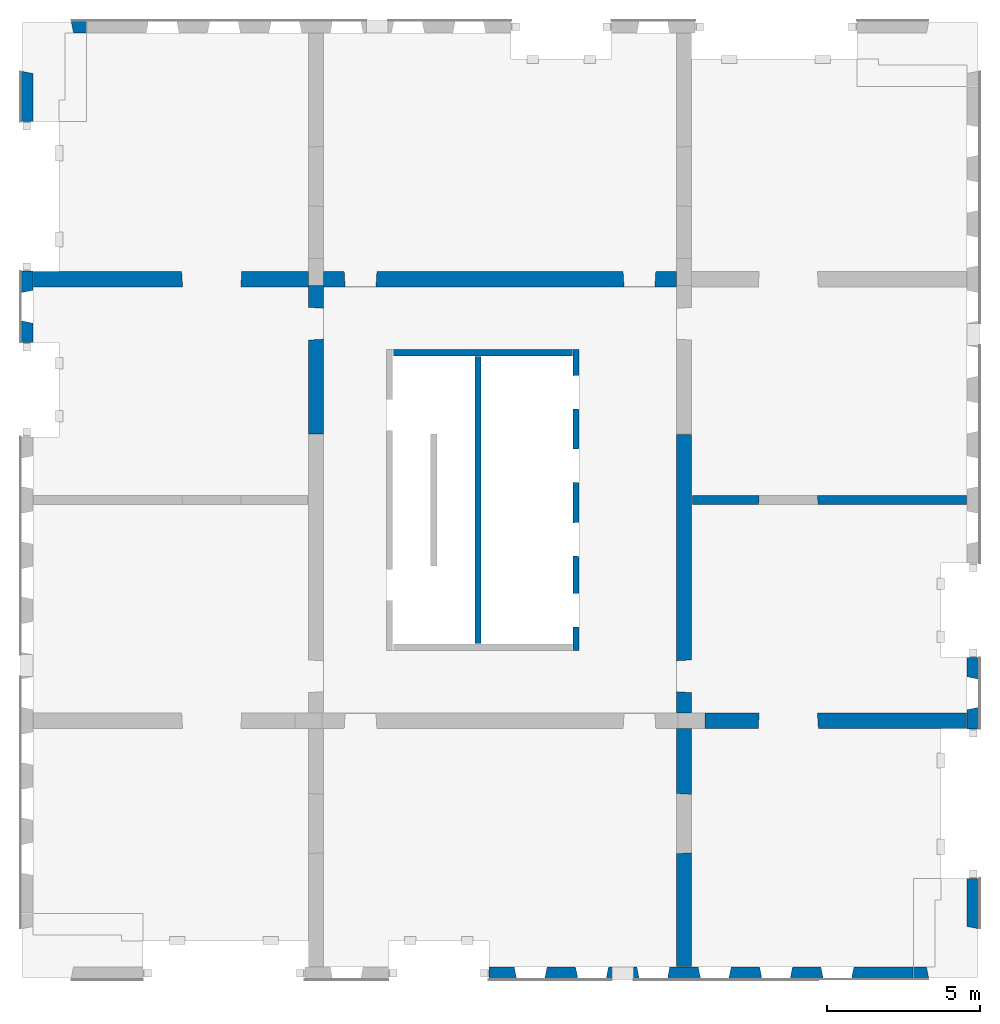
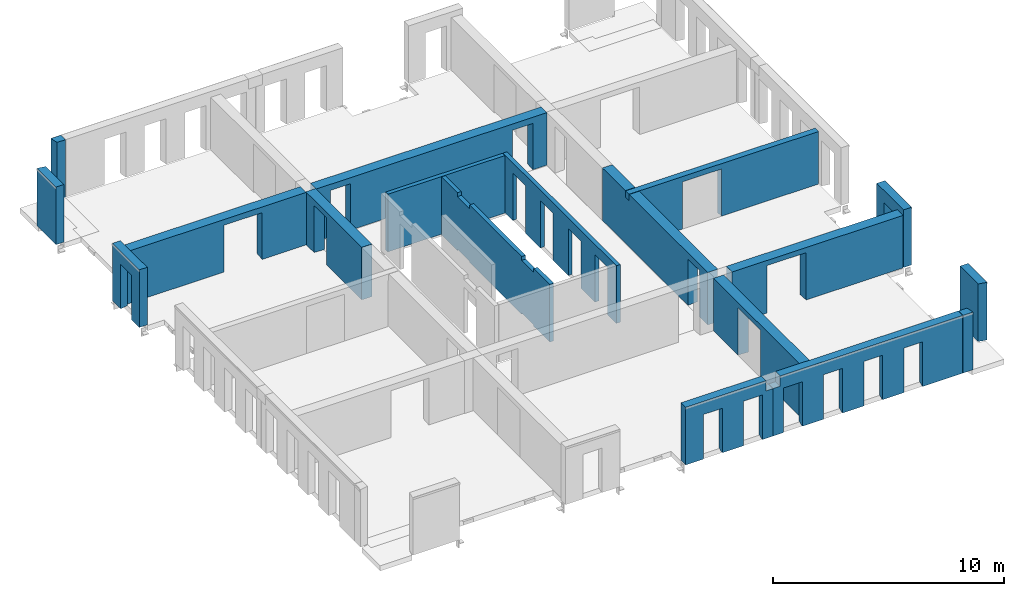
# One storey, part 3 of 5: 18 walls, 36 openings.
"""IFC2X3 building model written with IfcOpenShell, lengths in millimetres."""

import ifcopenshell
import ifcopenshell.guid

model = None  # the IFC model being written
_history = None  # IfcOwnerHistory: only IFC2X3 demands one
_inside = {}  # id of a spatial element -> (the spatial element, [elements in it])
_under = {}  # id of a project, library or spatial element -> (it, [spatial elements below it])
_declared = {}  # id of a project -> (the project, [libraries it declares])
_typed = {}  # id of a type object -> (the type object, [elements of that type])
_made_of = {}  # id of a material, layer set ... -> (it, [elements and type objects made of it])


def new_model(schema):
    """Start an empty IFC model of exactly this schema.

    Asked for "IFC4X3", IfcOpenShell would pick the latest addendum, in which some entities
    have other attributes; the version numbers below select the first issue.
    IFC2X3 requires an IfcOwnerHistory on every rooted entity: one is made here for all.
    """
    global model, _history
    if schema == "IFC4X3":
        model = ifcopenshell.file(schema_version=(4, 3, 0, 0))
    else:
        model = ifcopenshell.file(schema=schema)
    _inside.clear()
    _under.clear()
    _declared.clear()
    _typed.clear()
    _made_of.clear()
    _history = None
    if model.schema == "IFC2X3":
        org = make("IfcOrganization", Name="unknown")
        user = make(
            "IfcPersonAndOrganization",
            ThePerson=make("IfcPerson", FamilyName="unknown"),
            TheOrganization=org,
        )
        app = make(
            "IfcApplication",
            ApplicationDeveloper=org,
            Version="unknown",
            ApplicationFullName="unknown",
            ApplicationIdentifier="unknown",
        )
        _history = make(
            "IfcOwnerHistory",
            OwningUser=user,
            OwningApplication=app,
            ChangeAction="ADDED",
            CreationDate=0,
        )
    return model


def make(cls, **values):
    """One entity of the class cls with the attributes given. An attribute that is None is left unset."""
    return model.create_entity(
        cls, **{name: value for name, value in values.items() if value is not None}
    )


def entity(cls, *values):
    """Any entity or typed value of the class cls, its attributes in the order of the schema. None: left unset."""
    e = model.create_entity(cls)
    for i, value in enumerate(values):
        if value is not None:
            e[i] = value
    return e


def rooted(cls, **values):
    """An entity with a GlobalId (a new one), such as an element, a storey or a relation."""
    return make(cls, GlobalId=ifcopenshell.guid.new(), OwnerHistory=_history, **values)


def si_unit(unit_type, name, prefix=None):
    """IfcSIUnit, for example si_unit("LENGTHUNIT", "METRE", prefix="MILLI")."""
    return make("IfcSIUnit", UnitType=unit_type, Prefix=prefix, Name=name)


def converted_unit(unit_type, name, factor, base, dimensions=None, offset=None):
    """IfcConversionBasedUnit, such as the inch: factor (a typed value) times the base unit."""
    return make(
        "IfcConversionBasedUnit"
        if offset is None
        else "IfcConversionBasedUnitWithOffset",
        ConversionOffset=offset,
        Dimensions=None
        if dimensions is None
        else entity("IfcDimensionalExponents", *dimensions),
        UnitType=unit_type,
        Name=name,
        ConversionFactor=make(
            "IfcMeasureWithUnit", ValueComponent=factor, UnitComponent=base
        ),
    )


def derived_unit(unit_type, elements):
    """IfcDerivedUnit: a product of units, each with its exponent."""
    return make(
        "IfcDerivedUnit",
        Elements=[
            make("IfcDerivedUnitElement", Unit=unit, Exponent=power)
            for unit, power in elements
        ],
        UnitType=unit_type,
    )


def assignment(units):
    """IfcUnitAssignment: the units of a project."""
    return None if units is None else make("IfcUnitAssignment", Units=units)


def point(xyz):
    """IfcCartesianPoint."""
    return None if xyz is None else make("IfcCartesianPoint", Coordinates=xyz)


def direction(xyz):
    """IfcDirection."""
    return None if xyz is None else make("IfcDirection", DirectionRatios=xyz)


def frame(location, z_axis=None, x_axis=None):
    """IfcAxis2Placement3D, a coordinate frame: its origin and axes. An axis left out is left unset."""
    return make(
        "IfcAxis2Placement3D",
        Location=point(location),
        Axis=direction(z_axis),
        RefDirection=direction(x_axis),
    )


def frame_2d(location, x_axis=None):
    """IfcAxis2Placement2D, a coordinate frame in the plane: its origin and x axis."""
    return make(
        "IfcAxis2Placement2D", Location=point(location), RefDirection=direction(x_axis)
    )


def origin():
    """The frame at (0, 0, 0) with its axes left unset."""
    return frame((0.0, 0.0, 0.0))


def origin_2d_with_axis():
    """The frame at (0, 0) in the plane with the x axis (1, 0) written out."""
    return frame_2d((0.0, 0.0), x_axis=(1.0, 0.0))


def place(relative_to, where):
    """IfcLocalPlacement: puts the frame where relative to a parent placement (None: the world)."""
    return make(
        "IfcLocalPlacement", PlacementRelTo=relative_to, RelativePlacement=where
    )


def context(
    kind, dimensions, precision=None, world=None, true_north=None, identifier=None
):
    """IfcGeometricRepresentationContext, for example the 3D "Model" context."""
    return make(
        "IfcGeometricRepresentationContext",
        ContextIdentifier=identifier,
        ContextType=kind,
        CoordinateSpaceDimension=dimensions,
        Precision=precision,
        WorldCoordinateSystem=world,
        TrueNorth=true_north,
    )


def subcontext(parent, identifier, kind, view, scale=None):
    """IfcGeometricRepresentationSubContext, for example "Body" below "Model"."""
    return make(
        "IfcGeometricRepresentationSubContext",
        ContextIdentifier=identifier,
        ContextType=kind,
        ParentContext=parent,
        TargetScale=scale,
        TargetView=view,
    )


def project(units=None, contexts=None):
    """IfcProject with its units and contexts."""
    return rooted(
        "IfcProject",
        Name="project",
        RepresentationContexts=contexts,
        UnitsInContext=assignment(units),
    )


def spatial(cls, under=None, at=None, **own):
    """A site, building, storey or space (cls), placed at a placement, below another one or the project."""
    s = rooted(cls, ObjectPlacement=at, **own)
    if under is not None:
        _under.setdefault(under.id(), (under, []))[1].append(s)
    return s


def profile(cls, at=None, kind="AREA", **sizes):
    """A parametric profile (cls). Its sizes go by their IFC names, for example OverallWidth=200.0."""
    return make(cls, ProfileType=kind, Position=at, **sizes)


def rectangle(**sizes):
    """IfcRectangleProfileDef."""
    return profile("IfcRectangleProfileDef", **sizes)


def extrude(swept, where, along, depth):
    """IfcExtrudedAreaSolid: the profile swept, set in the frame where, extruded along a direction by depth."""
    return make(
        "IfcExtrudedAreaSolid",
        SweptArea=swept,
        Position=where,
        ExtrudedDirection=direction(along),
        Depth=depth,
    )


def faces_of(points, faces, orient=None, outer=None):
    """IfcFace entities. A face is a list of loops; a loop is a list of indices into points, from 0.

    orient and outer hold one flag for each loop. By default every Orientation is true, the
    first loop of a face is its IfcFaceOuterBound and the others are IfcFaceBound.
    """
    made = []
    for i, loops in enumerate(faces):
        bounds = []
        for j, loop in enumerate(loops):
            is_outer = j == 0 if outer is None else outer[i][j]
            bounds.append(
                make(
                    "IfcFaceOuterBound" if is_outer else "IfcFaceBound",
                    Bound=make("IfcPolyLoop", Polygon=[points[k] for k in loop]),
                    Orientation=True if orient is None else orient[i][j],
                )
            )
        made.append(make("IfcFace", Bounds=bounds))
    return made


def faceted_brep(points, faces, orient=None, outer=None, voids=None):
    """IfcFacetedBrep: a solid bounded by flat faces; with voids (closed shells), ...WithVoids."""
    shared = [point(p) for p in points]
    hull = make("IfcClosedShell", CfsFaces=faces_of(shared, faces, orient, outer))
    if voids is None:
        return make("IfcFacetedBrep", Outer=hull)
    return make(
        "IfcFacetedBrepWithVoids",
        Outer=hull,
        Voids=[
            make(cls, CfsFaces=faces_of(shared, fs, o, b)) for cls, fs, o, b in voids
        ],
    )


def shape(context_of_items, identifier, shape_type, items):
    """IfcShapeRepresentation: the items that make up one representation, for example the "Body"."""
    return make(
        "IfcShapeRepresentation",
        ContextOfItems=context_of_items,
        RepresentationIdentifier=identifier,
        RepresentationType=shape_type,
        Items=items,
    )


def material(Name=None, Category=None):
    """IfcMaterial."""
    return make("IfcMaterial", Name=Name, Category=Category)


def layer(
    of_material, thickness, ventilated=None, Name=None, Category=None, Priority=None
):
    """IfcMaterialLayer: one layer of a wall or slab, of a material (None: an air gap)."""
    return make(
        "IfcMaterialLayer",
        Material=of_material,
        LayerThickness=thickness,
        IsVentilated=ventilated,
        Name=Name,
        Category=Category,
        Priority=Priority,
    )


def layer_set(layers, Name=None):
    """IfcMaterialLayerSet."""
    return make("IfcMaterialLayerSet", MaterialLayers=layers, LayerSetName=Name)


def layer_usage(for_layer_set, set_direction, sense, offset, extent=None):
    """IfcMaterialLayerSetUsage: how a layer set lies in its element."""
    return make(
        "IfcMaterialLayerSetUsage",
        ForLayerSet=for_layer_set,
        LayerSetDirection=set_direction,
        DirectionSense=sense,
        OffsetFromReferenceLine=offset,
        ReferenceExtent=extent,
    )


def made_of(thing, what):
    """Note that an element or type object is made of a material, layer set ...; save() writes the relation."""
    if what is not None:
        _made_of.setdefault(what.id(), (what, []))[1].append(thing)
    return thing


def type_object(cls, material=None, **own):
    """A type object (cls), such as IfcWallType, which elements share."""
    return made_of(rooted(cls, **own), material)


def element(
    cls,
    number,
    at=None,
    inside=None,
    cuts=None,
    type_object=None,
    material=None,
    context=None,
    identifier="Body",
    shape_type=None,
    held_by="IfcProductDefinitionShape",
    body=None,
    shapes=None,
    **own,
):
    """One element of the class cls, such as IfcWall. Its Tag is "e" and its number.

    at: its placement. inside: the storey or other place that contains it. cuts: it is an
    opening in that element (IfcRelVoidsElement). A single representation is given by context,
    identifier, shape_type and body (its items); several are given by shapes. held_by: the class
    of the entity that holds the representations. save() writes the other relations.
    """
    e = rooted(cls, Tag="e%d" % number, ObjectPlacement=at, **own)
    if body is not None:
        shapes = [shape(context, identifier, shape_type, body)]
    if shapes is not None:
        e.Representation = make(held_by, Representations=shapes)
    if inside is not None:
        _inside.setdefault(inside.id(), (inside, []))[1].append(e)
    if cuts is not None:
        rooted(
            "IfcRelVoidsElement", RelatingBuildingElement=cuts, RelatedOpeningElement=e
        )
    if type_object is not None:
        _typed.setdefault(type_object.id(), (type_object, []))[1].append(e)
    return made_of(e, material)


def aggregate(whole, parts):
    """IfcRelAggregates: a whole, such as a stair, and the parts it consists of."""
    return rooted("IfcRelAggregates", RelatingObject=whole, RelatedObjects=parts)


def save(model, path):
    """Write the relations noted so far, then the file.

    IfcRelAggregates (storeys below a building ...), IfcRelContainedInSpatialStructure (elements
    in a storey), IfcRelDefinesByType, IfcRelAssociatesMaterial and IfcRelDeclares: one each for
    every whole, place, type object, material and project.
    """
    for whole, parts in _under.values():
        aggregate(whole, parts)
    for where, things in _inside.values():
        rooted(
            "IfcRelContainedInSpatialStructure",
            RelatedElements=things,
            RelatingStructure=where,
        )
    for kind, things in _typed.values():
        rooted("IfcRelDefinesByType", RelatedObjects=things, RelatingType=kind)
    for what, things in _made_of.values():
        rooted("IfcRelAssociatesMaterial", RelatedObjects=things, RelatingMaterial=what)
    for by, libraries in _declared.values():
        rooted("IfcRelDeclares", RelatingContext=by, RelatedDefinitions=libraries)
    model.write(path)


model = new_model("IFC2X3")

# Units and contexts
model_context = context("Model", 3, precision=0.01, world=origin(), true_north=direction((6.12303176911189e-17, 1.0)))
body_context = subcontext(model_context, "Body", "Model", "MODEL_VIEW")
ifc_project = project(units=[si_unit("LENGTHUNIT", "METRE", prefix="MILLI"), si_unit("AREAUNIT", "SQUARE_METRE"), si_unit("VOLUMEUNIT", "CUBIC_METRE"), converted_unit("PLANEANGLEUNIT", "DEGREE", entity("IfcRatioMeasure", 0.0174532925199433), si_unit("PLANEANGLEUNIT", "RADIAN"), dimensions=[0, 0, 0, 0, 0, 0, 0]), si_unit("MASSUNIT", "GRAM", prefix="KILO"), derived_unit("MASSDENSITYUNIT", [(si_unit("MASSUNIT", "GRAM", prefix="KILO"), 1), (si_unit("LENGTHUNIT", "METRE"), -3)]), si_unit("TIMEUNIT", "SECOND"), si_unit("FREQUENCYUNIT", "HERTZ"), si_unit("THERMODYNAMICTEMPERATUREUNIT", "DEGREE_CELSIUS"), derived_unit("THERMALTRANSMITTANCEUNIT", [(si_unit("MASSUNIT", "GRAM", prefix="KILO"), 1), (si_unit("THERMODYNAMICTEMPERATUREUNIT", "KELVIN"), -1), (si_unit("TIMEUNIT", "SECOND"), -3)]), derived_unit("VOLUMETRICFLOWRATEUNIT", [(si_unit("LENGTHUNIT", "METRE"), 3), (si_unit("TIMEUNIT", "SECOND"), -1)]), si_unit("ELECTRICCURRENTUNIT", "AMPERE"), si_unit("ELECTRICVOLTAGEUNIT", "VOLT"), si_unit("POWERUNIT", "WATT"), si_unit("FORCEUNIT", "NEWTON", prefix="KILO"), si_unit("ILLUMINANCEUNIT", "LUX"), si_unit("LUMINOUSFLUXUNIT", "LUMEN"), si_unit("LUMINOUSINTENSITYUNIT", "CANDELA"), derived_unit("USERDEFINED", [(si_unit("MASSUNIT", "GRAM", prefix="KILO"), -1), (si_unit("LENGTHUNIT", "METRE"), -2), (si_unit("TIMEUNIT", "SECOND"), 3), (si_unit("LUMINOUSFLUXUNIT", "LUMEN"), 1)]), derived_unit("LINEARVELOCITYUNIT", [(si_unit("LENGTHUNIT", "METRE"), 1), (si_unit("TIMEUNIT", "SECOND"), -1)]), si_unit("PRESSUREUNIT", "PASCAL"), derived_unit("USERDEFINED", [(si_unit("LENGTHUNIT", "METRE"), -2), (si_unit("MASSUNIT", "GRAM", prefix="KILO"), 1), (si_unit("TIMEUNIT", "SECOND"), -2)])], contexts=[model_context])

# Site, building, storey
site_placement = place(None, origin())
site = spatial("IfcSite", under=ifc_project, at=site_placement, Name="Default", CompositionType="ELEMENT")
building_placement = place(site_placement, origin())
building = spatial("IfcBuilding", under=site, at=building_placement, Name="niet gebruiken", CompositionType="ELEMENT")
storey_placement = place(building_placement, frame((0.0, 0.0, 27180.0)))
storey = spatial("IfcBuildingStorey", under=building, at=storey_placement, Name="08 achtste verdieping", CompositionType="ELEMENT", Elevation=27180.0)

# Wall, openings
ifc_material = material(Name="NLRS_f2_beton prefab")
ifc_layer_1 = layer(ifc_material, 200.0)
ifc_layer_set_1 = layer_set([ifc_layer_1], Name="Basic Wall:NLRS_22.21_WA_beton prefab d=200_gen")
ifc_layer_usage_1 = layer_usage(ifc_layer_set_1, "AXIS2", "NEGATIVE", 100.0)
wall_type_1 = type_object("IfcWallType", Name="Basic Wall:NLRS_22.21_WA_beton prefab d=200_gen", PredefinedType="STANDARD", material=ifc_layer_set_1)
wall_1_placement = place(storey_placement, frame((144230.0, 22400.0, -50.0), z_axis=(0.0, 0.0, 1.0), x_axis=(0.0, -1.0, 0.0)))
wall_1 = element("IfcWallStandardCase", 1, at=wall_1_placement, inside=storey, type_object=wall_type_1, material=ifc_layer_usage_1, Name="Basic Wall:NLRS_22.21_WA_beton prefab d=200_gen", ObjectType="Basic Wall:NLRS_22.21_WA_beton prefab d=200_gen", context=body_context, shape_type="SweptSolid", body=[
    extrude(rectangle(XDim=9800.0, YDim=199.999999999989, at=frame_2d((4900.0, -3.69482222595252e-13), x_axis=(-1.0, 0.0))), origin(), (0.0, 0.0, 1.0), 3039.99999999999),
])
opening_1_placement = place(wall_1_placement, frame((9047.0, -100.0, 0.0)))
element("IfcOpeningElement", 2, at=opening_1_placement, cuts=wall_1, Name="Basic Wall:NLRS_22.21_WA_beton prefab d=200_gen", ObjectType="Opening", context=body_context, shape_type="Brep", body=[
    faceted_brep([(-1104.0, 200.0, 2502.0), (-1104.0, 200.0, 0.0), (-1092.0, 0.0, 0.0), (-1092.0, 0.0, 2490.0), (0.0, 200.0, 0.0), (-12.0, 0.0, 0.0), (-12.0, 0.0, 2490.0), (0.0, 200.0, 2502.0)], [[[0, 1, 2, 3]], [[1, 4, 5, 2]], [[6, 3, 2, 5]], [[7, 4, 1, 0]], [[7, 0, 3, 6]], [[4, 7, 6, 5]]]),
])
opening_2_placement = place(wall_1_placement, frame((6737.0, -100.0, 0.0)))
element("IfcOpeningElement", 3, at=opening_2_placement, cuts=wall_1, Name="Basic Wall:NLRS_22.21_WA_beton prefab d=200_gen", ObjectType="Opening", context=body_context, shape_type="Brep", body=[
    faceted_brep([(-1104.0, 200.0, 2502.0), (-1104.0, 200.0, 0.0), (-1092.0, 0.0, 0.0), (-1092.0, 0.0, 2490.0), (0.0, 200.0, 0.0), (-12.0, 0.0, 0.0), (-12.0, 0.0, 2490.0), (0.0, 200.0, 2502.0)], [[[0, 1, 2, 3]], [[1, 4, 5, 2]], [[6, 3, 2, 5]], [[7, 4, 1, 0]], [[7, 0, 3, 6]], [[4, 7, 6, 5]]]),
])
opening_3_placement = place(wall_1_placement, frame((4332.0, -100.0, 0.0)))
element("IfcOpeningElement", 4, at=opening_3_placement, cuts=wall_1, Name="Basic Wall:NLRS_22.21_WA_beton prefab d=200_gen", ObjectType="Opening", context=body_context, shape_type="Brep", body=[
    faceted_brep([(-1104.0, 200.0, 2502.0), (-1104.0, 200.0, 0.0), (-1092.0, 0.0, 0.0), (-1092.0, 0.0, 2490.0), (0.0, 200.0, 0.0), (-12.0, 0.0, 0.0), (-12.0, 0.0, 2490.0), (0.0, 200.0, 2502.0)], [[[0, 1, 2, 3]], [[1, 4, 5, 2]], [[6, 3, 2, 5]], [[7, 4, 1, 0]], [[7, 0, 3, 6]], [[4, 7, 6, 5]]]),
])
opening_4_placement = place(wall_1_placement, frame((1942.0, -100.0, 0.0)))
element("IfcOpeningElement", 5, at=opening_4_placement, cuts=wall_1, Name="Basic Wall:NLRS_22.21_WA_beton prefab d=200_gen", ObjectType="Opening", context=body_context, shape_type="Brep", body=[
    faceted_brep([(-1104.0, 200.0, 2502.0), (-1104.0, 200.0, 0.0), (-1092.0, 0.0, 0.0), (-1092.0, 0.0, 2490.0), (0.0, 200.0, 0.0), (-12.0, 0.0, 0.0), (-12.0, 0.0, 2490.0), (0.0, 200.0, 2502.0)], [[[0, 1, 2, 3]], [[1, 4, 5, 2]], [[6, 3, 2, 5]], [[7, 4, 1, 0]], [[7, 0, 3, 6]], [[4, 7, 6, 5]]]),
])

ifc_layer_usage_2 = layer_usage(ifc_layer_set_1, "AXIS2", "NEGATIVE", 100.0)
wall_2_placement = place(storey_placement, frame((141030.0, 22180.0, -50.0), z_axis=(0.0, 0.0, 1.0), x_axis=(0.0, -1.0, 0.0)))
wall_2 = element("IfcWallStandardCase", 6, at=wall_2_placement, inside=storey, type_object=wall_type_1, material=ifc_layer_usage_2, Name="Basic Wall:NLRS_22.21_WA_beton prefab d=200_gen", ObjectType="Basic Wall:NLRS_22.21_WA_beton prefab d=200_gen", context=body_context, shape_type="SweptSolid", body=[
    extrude(rectangle(XDim=9360.0, YDim=199.999999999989, at=frame_2d((4680.0, -2.8421709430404e-14), x_axis=(-1.0, 0.0))), origin(), (0.0, 0.0, 1.0), 3039.99999999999),
])
opening_5_placement = place(wall_2_placement, origin())
element("IfcOpeningElement", 7, at=opening_5_placement, cuts=wall_2, Name="Basic Wall:NLRS_22.21_WA_beton prefab d=200_gen", ObjectType="Opening", context=body_context, shape_type="SweptSolid", body=[
    extrude(rectangle(XDim=70.0000000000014, YDim=1044.00000000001, at=origin_2d_with_axis()), frame((7452.0, -100.0, 35.0), z_axis=(0.0, 1.0, 0.0), x_axis=(0.0, 0.0, -1.0)), (0.0, 0.0, 1.0), 199.999999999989),
])
opening_6_placement = place(wall_2_placement, origin())
element("IfcOpeningElement", 8, at=opening_6_placement, cuts=wall_2, Name="Basic Wall:NLRS_22.21_WA_beton prefab d=200_gen", ObjectType="Opening", context=body_context, shape_type="SweptSolid", body=[
    extrude(rectangle(XDim=70.0000000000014, YDim=1044.00000000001, at=origin_2d_with_axis()), frame((1908.0, -100.0, 35.0), z_axis=(0.0, 1.0, 0.0), x_axis=(0.0, 0.0, -1.0)), (0.0, 0.0, 1.0), 199.999999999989),
])
opening_7_placement = place(wall_2_placement, origin())
element("IfcOpeningElement", 9, at=opening_7_placement, cuts=wall_2, Name="Basic Wall:NLRS_22.21_WA_beton prefab d=200_gen", ObjectType="Opening", context=body_context, shape_type="SweptSolid", body=[
    extrude(rectangle(XDim=199.999999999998, YDim=1044.00000000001, at=origin_2d_with_axis()), frame((1908.0, -100.0, 2940.0), z_axis=(0.0, 1.0, 0.0), x_axis=(0.0, 0.0, -1.0)), (0.0, 0.0, 1.0), 199.999999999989),
])
opening_8_placement = place(wall_2_placement, origin())
element("IfcOpeningElement", 10, at=opening_8_placement, cuts=wall_2, Name="Basic Wall:NLRS_22.21_WA_beton prefab d=200_gen", ObjectType="Opening", context=body_context, shape_type="SweptSolid", body=[
    extrude(rectangle(XDim=199.999999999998, YDim=1044.00000000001, at=origin_2d_with_axis()), frame((7452.0, -100.0, 2940.0), z_axis=(0.0, 1.0, 0.0), x_axis=(0.0, 0.0, -1.0)), (0.0, 0.0, 1.0), 199.999999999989),
])
opening_9_placement = place(wall_2_placement, origin())
element("IfcOpeningElement", 11, at=opening_9_placement, cuts=wall_2, Name="Basic Wall:NLRS_22.21_WA_beton prefab d=200_gen", ObjectType="Recess", context=body_context, shape_type="SweptSolid", body=[
    extrude(rectangle(XDim=399.999999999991, YDim=280.000000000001, at=frame_2d((-2.1600499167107e-12, -2.1600499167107e-12), x_axis=(0.0, 1.0))), frame((770.0, -60.0, 438.0), z_axis=(0.0, 1.0, 0.0), x_axis=(1.0, 0.0, 0.0)), (0.0, 0.0, 1.0), 159.999999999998),
])
opening_10_placement = place(wall_2_placement, origin())
element("IfcOpeningElement", 12, at=opening_10_placement, cuts=wall_2, Name="Basic Wall:NLRS_22.21_WA_beton prefab d=200_gen", ObjectType="Recess", context=body_context, shape_type="SweptSolid", body=[
    extrude(rectangle(XDim=399.999999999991, YDim=280.000000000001, at=frame_2d((-2.1600499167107e-12, 2.1600499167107e-12), x_axis=(0.0, 1.0))), frame((1570.0, -60.0, 438.0), z_axis=(0.0, 1.0, 0.0), x_axis=(1.0, 0.0, 0.0)), (0.0, 0.0, 1.0), 159.999999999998),
])
opening_11_placement = place(wall_2_placement, origin())
element("IfcOpeningElement", 13, at=opening_11_placement, cuts=wall_2, Name="Basic Wall:NLRS_22.21_WA_beton prefab d=200_gen", ObjectType="Recess", context=body_context, shape_type="SweptSolid", body=[
    extrude(rectangle(XDim=399.999999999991, YDim=279.999999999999, at=frame_2d((-1.08002495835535e-12, 2.1600499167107e-12), x_axis=(0.0, 1.0))), frame((3160.0, -60.0, 438.0), z_axis=(0.0, 1.0, 0.0), x_axis=(1.0, 0.0, 0.0)), (0.0, 0.0, 1.0), 159.999999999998),
])
opening_12_placement = place(wall_2_placement, origin())
element("IfcOpeningElement", 14, at=opening_12_placement, cuts=wall_2, Name="Basic Wall:NLRS_22.21_WA_beton prefab d=200_gen", ObjectType="Recess", context=body_context, shape_type="SweptSolid", body=[
    extrude(rectangle(XDim=399.999999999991, YDim=279.999999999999, at=frame_2d((1.08002495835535e-12, 2.1600499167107e-12), x_axis=(0.0, 1.0))), frame((3960.0, -60.0, 438.0), z_axis=(0.0, 1.0, 0.0), x_axis=(1.0, 0.0, 0.0)), (0.0, 0.0, 1.0), 159.999999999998),
])

# Wall
ifc_layer_usage_3 = layer_usage(ifc_layer_set_1, "AXIS2", "NEGATIVE", 100.0)
wall_3_placement = place(storey_placement, frame((138270.0, 22300.0, -50.0)))
element("IfcWallStandardCase", 15, at=wall_3_placement, inside=storey, type_object=wall_type_1, material=ifc_layer_usage_3, Name="Basic Wall:NLRS_22.21_WA_beton prefab d=200_gen", ObjectType="Basic Wall:NLRS_22.21_WA_beton prefab d=200_gen", context=body_context, shape_type="SweptSolid", body=[
    extrude(rectangle(XDim=5839.99999999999, YDim=199.999999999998, at=frame_2d((2919.99999999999, -7.60280727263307e-13), x_axis=(-1.0, 0.0))), origin(), (0.0, 0.0, 1.0), 3039.99999999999),
])

# Wall, openings
ifc_layer_2 = layer(ifc_material, 300.0)
ifc_layer_set_2 = layer_set([ifc_layer_2], Name="Basic Wall:NLRS_22.21_WA_beton prefab d=300_gen")
ifc_layer_usage_4 = layer_usage(ifc_layer_set_2, "AXIS2", "NEGATIVE", 150.0)
wall_type_2 = type_object("IfcWallType", Name="Basic Wall:NLRS_22.21_WA_beton prefab d=300_gen", PredefinedType="STANDARD", material=ifc_layer_set_2)
wall_4_placement = place(storey_placement, frame((156960.0, 17500.0, -70.0), z_axis=(0.0, 0.0, 1.0), x_axis=(-1.0, 0.0, 0.0)))
wall_4 = element("IfcWallStandardCase", 16, at=wall_4_placement, inside=storey, type_object=wall_type_2, material=ifc_layer_usage_4, Name="Basic Wall:NLRS_22.21_WA_beton prefab d=300_gen", ObjectType="Basic Wall:NLRS_22.21_WA_beton prefab d=300_gen", context=body_context, shape_type="SweptSolid", body=[
    extrude(rectangle(XDim=9459.99999999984, YDim=300.000000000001, at=frame_2d((4729.99999999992, 2.27373675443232e-13), x_axis=(-1.0, 0.0))), origin(), (0.0, 0.0, 1.0), 2770.0),
])
opening_13_placement = place(wall_4_placement, frame((6778.0, 150.0, 0.0)))
element("IfcOpeningElement", 17, at=opening_13_placement, cuts=wall_4, Name="Basic Wall:NLRS_22.21_WA_beton prefab d=300_gen", ObjectType="Opening", context=body_context, shape_type="Brep", body=[
    faceted_brep([(-18.0, -300.0, 2470.0), (-1918.0, -300.0, 2470.0), (-1918.0, -300.0, 0.0), (-18.0, -300.0, 0.0), (0.0, 0.0, 2488.0), (0.0, 0.0, 0.0), (-1936.0, 0.0, 0.0), (-1936.0, 0.0, 2488.0)], [[[0, 1, 2, 3]], [[4, 5, 6, 7]], [[4, 7, 1, 0]], [[7, 6, 2, 1]], [[6, 5, 3, 2]], [[5, 4, 0, 3]]]),
])
opening_14_placement = place(wall_4_placement, origin())
element("IfcOpeningElement", 18, at=opening_14_placement, cuts=wall_4, Name="Basic Wall:NLRS_22.21_WA_beton prefab d=300_gen", ObjectType="Opening", context=body_context, shape_type="SweptSolid", body=[
    extrude(rectangle(XDim=2440.0, YDim=520.000000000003, at=frame_2d((-8.64019966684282e-12, -2.1600499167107e-12), x_axis=(0.0, 1.0))), frame((9200.0, 150.0, 1220.0), z_axis=(0.0, -1.0, 0.0), x_axis=(1.0, 0.0, 0.0)), (0.0, 0.0, 1.0), 300.0),
])

# Wall, opening
ifc_layer_3 = layer(ifc_material, 400.0)
ifc_layer_set_3 = layer_set([ifc_layer_3], Name="Basic Wall:NLRS_21.21_WA_beton prefab d=400/420_gen")
ifc_layer_usage_5 = layer_usage(ifc_layer_set_3, "AXIS2", "NEGATIVE", 200.0)
wall_type_3 = type_object("IfcWallType", Name="Basic Wall:NLRS_21.21_WA_beton prefab d=400/420_gen", PredefinedType="STANDARD", material=ifc_layer_set_3)
wall_5_placement = place(storey_placement, frame((155720.0, 2070.0, -50.0), z_axis=(0.0, 0.0, 1.0), x_axis=(-1.0, 0.0, 0.0)))
wall_5 = element("IfcWallStandardCase", 19, at=wall_5_placement, inside=storey, type_object=wall_type_3, material=ifc_layer_usage_5, Name="Basic Wall:NLRS_21.21_WA_beton prefab d=400/420_gen", ObjectType="Basic Wall:NLRS_21.21_WA_beton prefab d=400/420_gen", context=body_context, shape_type="SweptSolid", body=[
    extrude(rectangle(XDim=490.000000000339, YDim=400.0, at=frame_2d((245.00000000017, 4.2632564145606e-14), x_axis=(-1.0, 0.0))), origin(), (0.0, 0.0, 1.0), 3040.0),
])
opening_15_placement = place(wall_5_placement, frame((65.0, 119.0, 0.0)))
element("IfcOpeningElement", 20, at=opening_15_placement, cuts=wall_5, Name="Basic Wall:NLRS_21.21_WA_beton prefab d=400/420_gen", ObjectType="Opening", context=body_context, shape_type="Brep", body=[
    faceted_brep([(-65.0, -319.0, 3040.0), (0.0, -319.0, 3040.0), (-65.0, 0.0, 3040.0), (-65.0, -319.0, 0.0), (-65.0, 0.0, 0.0), (0.0, -319.0, 0.0)], [[[0, 1, 2]], [[3, 4, 5]], [[1, 0, 3, 5]], [[0, 2, 4, 3]], [[2, 1, 5, 4]]]),
])

ifc_layer_usage_6 = layer_usage(ifc_layer_set_3, "AXIS2", "NEGATIVE", 200.0)
wall_6_placement = place(storey_placement, frame((157180.0, 5160.0, -50.0), z_axis=(0.0, 0.0, 1.0), x_axis=(0.0, -1.0, 0.0)))
wall_6 = element("IfcWallStandardCase", 21, at=wall_6_placement, inside=storey, type_object=wall_type_3, material=ifc_layer_usage_6, Name="Basic Wall:NLRS_21.21_WA_beton prefab d=400/420_gen", ObjectType="Basic Wall:NLRS_21.21_WA_beton prefab d=400/420_gen", context=body_context, shape_type="SweptSolid", body=[
    extrude(rectangle(XDim=1629.99999999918, YDim=399.999999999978, at=frame_2d((814.999999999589, 6.28119778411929e-12), x_axis=(-1.0, 0.0))), origin(), (0.0, 0.0, 1.0), 3040.0),
])
opening_16_placement = place(wall_6_placement, frame((1630.0, -200.0, 0.0)))
element("IfcOpeningElement", 22, at=opening_16_placement, cuts=wall_6, Name="Basic Wall:NLRS_21.21_WA_beton prefab d=400/420_gen", ObjectType="Opening", context=body_context, shape_type="Brep", body=[
    faceted_brep([(0.0, 0.0, 3040.0), (0.0, 319.0, 3040.0), (-65.0, 0.0, 3040.0), (0.0, 0.0, 0.0), (-65.0, 0.0, 0.0), (0.0, 319.0, 0.0)], [[[0, 1, 2]], [[3, 4, 5]], [[2, 4, 3, 0]], [[0, 3, 5, 1]], [[1, 5, 4, 2]]]),
])

ifc_layer_usage_7 = layer_usage(ifc_layer_set_3, "AXIS2", "NEGATIVE", 200.0)
wall_7_placement = place(storey_placement, frame((127780.0, 32930.0, -50.0)))
wall_7 = element("IfcWallStandardCase", 23, at=wall_7_placement, inside=storey, type_object=wall_type_3, material=ifc_layer_usage_7, Name="Basic Wall:NLRS_21.21_WA_beton prefab d=400/420_gen", ObjectType="Basic Wall:NLRS_21.21_WA_beton prefab d=400/420_gen", context=body_context, shape_type="SweptSolid", body=[
    extrude(rectangle(XDim=490.000000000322, YDim=400.000000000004, at=frame_2d((245.000000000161, 1.06581410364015e-12), x_axis=(-1.0, 0.0))), origin(), (0.0, 0.0, 1.0), 3040.0),
])
opening_17_placement = place(wall_7_placement, frame((0.0, -200.0, 0.0)))
element("IfcOpeningElement", 24, at=opening_17_placement, cuts=wall_7, Name="Basic Wall:NLRS_21.21_WA_beton prefab d=400/420_gen", ObjectType="Opening", context=body_context, shape_type="Brep", body=[
    faceted_brep([(0.0, 0.0, 3040.0), (65.0, 0.0, 3040.0), (0.0, 319.0, 3040.0), (0.0, 0.0, 0.0), (0.0, 319.0, 0.0), (65.0, 0.0, 0.0)], [[[0, 1, 2]], [[3, 4, 5]], [[1, 0, 3, 5]], [[0, 2, 4, 3]], [[2, 1, 5, 4]]]),
])

ifc_layer_usage_8 = layer_usage(ifc_layer_set_3, "AXIS2", "NEGATIVE", 200.0)
wall_8_placement = place(storey_placement, frame((126320.0, 29840.0, -50.0), z_axis=(0.0, 0.0, 1.0), x_axis=(0.0, 1.0, 0.0)))
wall_8 = element("IfcWallStandardCase", 25, at=wall_8_placement, inside=storey, type_object=wall_type_3, material=ifc_layer_usage_8, Name="Basic Wall:NLRS_21.21_WA_beton prefab d=400/420_gen", ObjectType="Basic Wall:NLRS_21.21_WA_beton prefab d=400/420_gen", context=body_context, shape_type="SweptSolid", body=[
    extrude(rectangle(XDim=1629.99999999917, YDim=400.000000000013, at=frame_2d((814.999999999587, 2.41584530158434e-12), x_axis=(-1.0, 0.0))), origin(), (0.0, 0.0, 1.0), 3040.0),
])
opening_18_placement = place(wall_8_placement, frame((1565.0, 119.0, 0.0)))
element("IfcOpeningElement", 26, at=opening_18_placement, cuts=wall_8, Name="Basic Wall:NLRS_21.21_WA_beton prefab d=400/420_gen", ObjectType="Opening", context=body_context, shape_type="Brep", body=[
    faceted_brep([(65.0, -319.0, 3040.0), (65.0, 0.0, 3040.0), (0.0, -319.0, 3040.0), (65.0, -319.0, 0.0), (0.0, -319.0, 0.0), (65.0, 0.0, 0.0)], [[[0, 1, 2]], [[3, 4, 5]], [[2, 4, 3, 0]], [[0, 3, 5, 1]], [[1, 5, 4, 2]]]),
])

ifc_layer_usage_9 = layer_usage(ifc_layer_set_3, "AXIS2", "NEGATIVE", 200.0)
wall_9_placement = place(storey_placement, frame((126320.0, 22640.0, -50.0), z_axis=(0.0, 0.0, 1.0), x_axis=(0.0, 1.0, 0.0)))
wall_9 = element("IfcWallStandardCase", 27, at=wall_9_placement, inside=storey, type_object=wall_type_3, material=ifc_layer_usage_9, Name="Basic Wall:NLRS_21.21_WA_beton prefab d=400/420_gen", ObjectType="Basic Wall:NLRS_21.21_WA_beton prefab d=400/420_gen", context=body_context, shape_type="SweptSolid", body=[
    extrude(rectangle(XDim=2320.0, YDim=400.000000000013, at=frame_2d((1160.0, -3.62376795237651e-12), x_axis=(-1.0, 0.0))), origin(), (0.0, 0.0, 1.0), 3040.0),
])
opening_19_placement = place(wall_9_placement, frame((625.0, 200.0, -20.0)))
element("IfcOpeningElement", 28, at=opening_19_placement, cuts=wall_9, Name="Basic Wall:NLRS_21.21_WA_beton prefab d=400/420_gen", ObjectType="Opening", context=body_context, shape_type="Brep", body=[
    faceted_brep([(0.0, -400.0, 2405.0), (0.0, -400.0, 0.0), (1070.0, -400.0, 0.0), (1070.0, -400.0, 2405.0), (1005.0, -81.0, 2370.0), (65.0, -81.0, 2370.0), (1005.0, -81.0, 0.0), (65.0, -81.0, 0.0), (65.0, 0.0, 0.0), (1005.0, 0.0, 0.0), (65.0, 0.0, 2370.0), (1005.0, 0.0, 2370.0)], [[[0, 1, 2, 3]], [[3, 4, 5, 0]], [[2, 6, 4, 3]], [[1, 7, 8, 9, 6, 2]], [[0, 5, 7, 1]], [[10, 11, 9, 8]], [[10, 5, 4, 11]], [[11, 4, 6, 9]], [[8, 7, 5, 10]]]),
])

ifc_layer_usage_10 = layer_usage(ifc_layer_set_3, "AXIS2", "NEGATIVE", 200.0)
wall_10_placement = place(storey_placement, frame((157180.0, 12360.0, -50.0), z_axis=(0.0, 0.0, 1.0), x_axis=(0.0, -1.0, 0.0)))
wall_10 = element("IfcWallStandardCase", 29, at=wall_10_placement, inside=storey, type_object=wall_type_3, material=ifc_layer_usage_10, Name="Basic Wall:NLRS_21.21_WA_beton prefab d=400/420_gen", ObjectType="Basic Wall:NLRS_21.21_WA_beton prefab d=400/420_gen", context=body_context, shape_type="SweptSolid", body=[
    extrude(rectangle(XDim=2320.0, YDim=399.999999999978, at=frame_2d((1160.0, -8.38440428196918e-12), x_axis=(-1.0, 0.0))), origin(), (0.0, 0.0, 1.0), 3040.0),
])
opening_20_placement = place(wall_10_placement, frame((1695.0, -200.0, -20.0)))
element("IfcOpeningElement", 30, at=opening_20_placement, cuts=wall_10, Name="Basic Wall:NLRS_21.21_WA_beton prefab d=400/420_gen", ObjectType="Opening", context=body_context, shape_type="Brep", body=[
    faceted_brep([(-1070.0, 0.0, 2405.0), (-1070.0, 0.0, 0.0), (0.0, 0.0, 0.0), (0.0, 0.0, 2405.0), (-65.0, 319.0, 2370.0), (-1005.0, 319.0, 2370.0), (-65.0, 319.0, 0.0), (-1005.0, 319.0, 0.0), (-1005.0, 400.0, 0.0), (-65.0, 400.0, 0.0), (-1005.0, 400.0, 2370.0), (-65.0, 400.0, 2370.0)], [[[0, 1, 2, 3]], [[3, 4, 5, 0]], [[2, 6, 4, 3]], [[1, 7, 8, 9, 6, 2]], [[0, 5, 7, 1]], [[10, 11, 9, 8]], [[10, 5, 4, 11]], [[11, 4, 6, 9]], [[8, 7, 5, 10]]]),
])

# Wall, openings
ifc_layer_usage_11 = layer_usage(ifc_layer_set_3, "AXIS2", "NEGATIVE", 200.0)
wall_11_placement = place(storey_placement, frame((155210.0, 2070.0, -50.0), z_axis=(0.0, 0.0, 1.0), x_axis=(-1.0, 0.0, 0.0)))
wall_11 = element("IfcWallStandardCase", 31, at=wall_11_placement, inside=storey, type_object=wall_type_3, material=ifc_layer_usage_11, Name="Basic Wall:NLRS_21.21_WA_beton prefab d=400/420_gen", ObjectType="Basic Wall:NLRS_21.21_WA_beton prefab d=400/420_gen", context=body_context, shape_type="SweptSolid", body=[
    extrude(rectangle(XDim=9449.99999999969, YDim=400.0, at=frame_2d((4724.99999999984, -2.8421709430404e-14), x_axis=(-1.0, 0.0))), origin(), (0.0, 0.0, 1.0), 3040.0),
])
opening_21_placement = place(wall_11_placement, frame((4995.0, 200.0, -20.0)))
element("IfcOpeningElement", 32, at=opening_21_placement, cuts=wall_11, Name="Basic Wall:NLRS_21.21_WA_beton prefab d=400/420_gen", ObjectType="Opening", context=body_context, shape_type="Brep", body=[
    faceted_brep([(0.0, -400.0, 2405.0), (-1070.0, -400.0, 2405.0), (-1070.0, -400.0, 0.0), (0.0, -400.0, 0.0), (-65.0, -81.0, 2370.0), (-1005.0, -81.0, 2370.0), (-1005.0, -81.0, 0.0), (-1005.0, 0.0, 0.0), (-65.0, 0.0, 0.0), (-65.0, -81.0, 0.0), (-65.0, 0.0, 2370.0), (-1005.0, 0.0, 2370.0)], [[[0, 1, 2, 3]], [[1, 0, 4, 5]], [[2, 1, 5, 6]], [[3, 2, 6, 7, 8, 9]], [[0, 3, 9, 4]], [[10, 8, 7, 11]], [[10, 11, 5, 4]], [[11, 7, 6, 5]], [[8, 10, 4, 9]]]),
])
opening_22_placement = place(wall_11_placement, frame((2995.0, 200.0, -20.0)))
element("IfcOpeningElement", 33, at=opening_22_placement, cuts=wall_11, Name="Basic Wall:NLRS_21.21_WA_beton prefab d=400/420_gen", ObjectType="Opening", context=body_context, shape_type="Brep", body=[
    faceted_brep([(0.0, -400.0, 2405.0), (-1070.0, -400.0, 2405.0), (-1070.0, -400.0, 0.0), (0.0, -400.0, 0.0), (-65.0, -81.0, 2370.0), (-1005.0, -81.0, 2370.0), (-1005.0, -81.0, 0.0), (-1005.0, 0.0, 0.0), (-65.0, 0.0, 0.0), (-65.0, -81.0, 0.0), (-65.0, 0.0, 2370.0), (-1005.0, 0.0, 2370.0)], [[[0, 1, 2, 3]], [[1, 0, 4, 5]], [[2, 1, 5, 6]], [[3, 2, 6, 7, 8, 9]], [[0, 3, 9, 4]], [[10, 8, 7, 11]], [[10, 11, 5, 4]], [[11, 7, 6, 5]], [[8, 10, 4, 9]]]),
])
opening_23_placement = place(wall_11_placement, frame((8995.0, 200.0, -20.0)))
element("IfcOpeningElement", 34, at=opening_23_placement, cuts=wall_11, Name="Basic Wall:NLRS_21.21_WA_beton prefab d=400/420_gen", ObjectType="Opening", context=body_context, shape_type="Brep", body=[
    faceted_brep([(0.0, -400.0, 2405.0), (-1070.0, -400.0, 2405.0), (-1070.0, -400.0, 0.0), (0.0, -400.0, 0.0), (-65.0, -81.0, 2370.0), (-1005.0, -81.0, 2370.0), (-1005.0, -81.0, 0.0), (-1005.0, 0.0, 0.0), (-65.0, 0.0, 0.0), (-65.0, -81.0, 0.0), (-65.0, 0.0, 2370.0), (-1005.0, 0.0, 2370.0)], [[[0, 1, 2, 3]], [[1, 0, 4, 5]], [[2, 1, 5, 6]], [[3, 2, 6, 7, 8, 9]], [[0, 3, 9, 4]], [[10, 8, 7, 11]], [[10, 11, 5, 4]], [[11, 7, 6, 5]], [[8, 10, 4, 9]]]),
])
opening_24_placement = place(wall_11_placement, frame((6995.0, 200.0, -20.0)))
element("IfcOpeningElement", 35, at=opening_24_placement, cuts=wall_11, Name="Basic Wall:NLRS_21.21_WA_beton prefab d=400/420_gen", ObjectType="Opening", context=body_context, shape_type="Brep", body=[
    faceted_brep([(0.0, -400.0, 2405.0), (-1070.0, -400.0, 2405.0), (-1070.0, -400.0, 0.0), (0.0, -400.0, 0.0), (-65.0, -81.0, 2370.0), (-1005.0, -81.0, 2370.0), (-1005.0, -81.0, 0.0), (-1005.0, 0.0, 0.0), (-65.0, 0.0, 0.0), (-65.0, -81.0, 0.0), (-65.0, 0.0, 2370.0), (-1005.0, 0.0, 2370.0)], [[[0, 1, 2, 3]], [[1, 0, 4, 5]], [[2, 1, 5, 6]], [[3, 2, 6, 7, 8, 9]], [[0, 3, 9, 4]], [[10, 8, 7, 11]], [[10, 11, 5, 4]], [[11, 7, 6, 5]], [[8, 10, 4, 9]]]),
])
opening_25_placement = place(wall_11_placement, origin())
element("IfcOpeningElement", 36, at=opening_25_placement, cuts=wall_11, Name="Basic Wall:NLRS_21.21_WA_beton prefab d=400/420_gen", ObjectType="Opening", context=body_context, shape_type="SweptSolid", body=[
    extrude(rectangle(XDim=535.0, YDim=345.000000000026, at=frame_2d((0.0, -8.66862137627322e-12), x_axis=(1.0, 0.0))), frame((9277.49999999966, 200.0, 2772.5), z_axis=(0.0, -1.0, 0.0), x_axis=(0.0, 0.0, 1.0)), (0.0, 0.0, 1.0), 400.0),
])

ifc_layer_usage_12 = layer_usage(ifc_layer_set_3, "AXIS2", "NEGATIVE", 200.0)
wall_12_placement = place(storey_placement, frame((145740.0, 2070.0, -50.0), z_axis=(0.0, 0.0, 1.0), x_axis=(-1.0, 0.0, 0.0)))
wall_12 = element("IfcWallStandardCase", 37, at=wall_12_placement, inside=storey, type_object=wall_type_3, material=ifc_layer_usage_12, Name="Basic Wall:NLRS_21.21_WA_beton prefab d=400/420_gen", ObjectType="Basic Wall:NLRS_21.21_WA_beton prefab d=400/420_gen", context=body_context, shape_type="SweptSolid", body=[
    extrude(rectangle(XDim=4350.00000000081, YDim=400.0, at=frame_2d((2175.00000000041, 4.2632564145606e-14), x_axis=(-1.0, 0.0))), origin(), (0.0, 0.0, 1.0), 3040.0),
])
opening_26_placement = place(wall_12_placement, frame((3525.0, 200.0, -20.0)))
element("IfcOpeningElement", 38, at=opening_26_placement, cuts=wall_12, Name="Basic Wall:NLRS_21.21_WA_beton prefab d=400/420_gen", ObjectType="Opening", context=body_context, shape_type="Brep", body=[
    faceted_brep([(0.0, -400.0, 2405.0), (-1070.0, -400.0, 2405.0), (-1070.0, -400.0, 0.0), (0.0, -400.0, 0.0), (-65.0, -81.0, 2370.0), (-1005.0, -81.0, 2370.0), (-1005.0, -81.0, 0.0), (-1005.0, 0.0, 0.0), (-65.0, 0.0, 0.0), (-65.0, -81.0, 0.0), (-65.0, 0.0, 2370.0), (-1005.0, 0.0, 2370.0)], [[[0, 1, 2, 3]], [[1, 0, 4, 5]], [[2, 1, 5, 6]], [[3, 2, 6, 7, 8, 9]], [[0, 3, 9, 4]], [[10, 8, 7, 11]], [[10, 11, 5, 4]], [[11, 7, 6, 5]], [[8, 10, 4, 9]]]),
])
opening_27_placement = place(wall_12_placement, frame((1525.0, 200.0, -20.0)))
element("IfcOpeningElement", 39, at=opening_27_placement, cuts=wall_12, Name="Basic Wall:NLRS_21.21_WA_beton prefab d=400/420_gen", ObjectType="Opening", context=body_context, shape_type="Brep", body=[
    faceted_brep([(0.0, -400.0, 2405.0), (-1070.0, -400.0, 2405.0), (-1070.0, -400.0, 0.0), (0.0, -400.0, 0.0), (-65.0, -81.0, 2370.0), (-1005.0, -81.0, 2370.0), (-1005.0, -81.0, 0.0), (-1005.0, 0.0, 0.0), (-65.0, 0.0, 0.0), (-65.0, -81.0, 0.0), (-65.0, 0.0, 2370.0), (-1005.0, 0.0, 2370.0)], [[[0, 1, 2, 3]], [[1, 0, 4, 5]], [[2, 1, 5, 6]], [[3, 2, 6, 7, 8, 9]], [[0, 3, 9, 4]], [[10, 8, 7, 11]], [[10, 11, 5, 4]], [[11, 7, 6, 5]], [[8, 10, 4, 9]]]),
])
opening_28_placement = place(wall_12_placement, origin())
element("IfcOpeningElement", 40, at=opening_28_placement, cuts=wall_12, Name="Basic Wall:NLRS_21.21_WA_beton prefab d=400/420_gen", ObjectType="Opening", context=body_context, shape_type="SweptSolid", body=[
    extrude(rectangle(XDim=535.0, YDim=345.000000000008, at=frame_2d((0.0, 0.0), x_axis=(0.0, 1.0))), frame((172.500000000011, 200.0, 2772.5), z_axis=(0.0, -1.0, 0.0), x_axis=(-1.0, 0.0, 0.0)), (0.0, 0.0, 1.0), 400.0),
])

ifc_layer_4 = layer(ifc_material, 500.0)
ifc_layer_set_4 = layer_set([ifc_layer_4], Name="Basic Wall:NLRS_22.21_WA_beton prefab d=500_gen")
ifc_layer_usage_13 = layer_usage(ifc_layer_set_4, "AXIS2", "NEGATIVE", 250.0)
wall_type_4 = type_object("IfcWallType", Name="Basic Wall:NLRS_22.21_WA_beton prefab d=500_gen", PredefinedType="STANDARD", material=ifc_layer_set_4)
wall_13_placement = place(storey_placement, frame((136000.0, 24700.0, -70.0)))
wall_13 = element("IfcWallStandardCase", 41, at=wall_13_placement, inside=storey, type_object=wall_type_4, material=ifc_layer_usage_13, Name="Basic Wall:NLRS_22.21_WA_beton prefab d=500_gen", ObjectType="Basic Wall:NLRS_22.21_WA_beton prefab d=500_gen", context=body_context, shape_type="SweptSolid", body=[
    extrude(rectangle(XDim=11499.9999999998, YDim=499.999999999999, at=frame_2d((5749.99999999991, 0.0), x_axis=(-1.0, 0.0))), origin(), (0.0, 0.0, 1.0), 2770.00000000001),
])
opening_29_placement = place(wall_13_placement, frame((670.0, -250.0, 0.0)))
element("IfcOpeningElement", 42, at=opening_29_placement, cuts=wall_13, Name="Basic Wall:NLRS_22.21_WA_beton prefab d=500_gen", ObjectType="Opening", context=body_context, shape_type="Brep", body=[
    faceted_brep([(1066.0, 500.0, 2478.0), (1036.0, 0.0, 2448.0), (1036.0, 0.0, 0.0), (1066.0, 500.0, 0.0), (30.0, 0.0, 0.0), (0.0, 500.0, 0.0), (30.0, 0.0, 2448.0), (0.0, 500.0, 2478.0)], [[[0, 1, 2, 3]], [[3, 2, 4, 5]], [[6, 4, 2, 1]], [[7, 0, 3, 5]], [[7, 6, 1, 0]], [[5, 4, 6, 7]]]),
])
opening_30_placement = place(wall_13_placement, frame((9764.0, -250.0, 0.0)))
element("IfcOpeningElement", 43, at=opening_30_placement, cuts=wall_13, Name="Basic Wall:NLRS_22.21_WA_beton prefab d=500_gen", ObjectType="Opening", context=body_context, shape_type="Brep", body=[
    faceted_brep([(30.0, 0.0, 2448.0), (30.0, 0.0, 0.0), (1036.0, 0.0, 0.0), (1036.0, 0.0, 2448.0), (0.0, 500.0, 2478.0), (1066.0, 500.0, 2478.0), (1066.0, 500.0, 0.0), (0.0, 500.0, 0.0)], [[[0, 1, 2, 3]], [[4, 5, 6, 7]], [[4, 0, 3, 5]], [[5, 3, 2, 6]], [[6, 2, 1, 7]], [[7, 1, 0, 4]]]),
])

# Wall, opening
ifc_layer_usage_14 = layer_usage(ifc_layer_set_4, "AXIS2", "NEGATIVE", 250.0)
wall_14_placement = place(storey_placement, frame((135750.0, 24500.0, -70.0), z_axis=(0.0, 0.0, 1.0), x_axis=(0.0, -1.0, 0.0)))
wall_14 = element("IfcWallStandardCase", 44, at=wall_14_placement, inside=storey, type_object=wall_type_4, material=ifc_layer_usage_14, Name="Basic Wall:NLRS_22.21_WA_beton prefab d=500_gen", ObjectType="Basic Wall:NLRS_22.21_WA_beton prefab d=500_gen", context=body_context, shape_type="SweptSolid", body=[
    extrude(rectangle(XDim=4840.00000000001, YDim=499.99999999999, at=frame_2d((2420.0, 0.0), x_axis=(-1.0, 0.0))), origin(), (0.0, 0.0, 1.0), 2770.00000000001),
])
opening_31_placement = place(wall_14_placement, frame((1786.0, -250.0, 0.0)))
element("IfcOpeningElement", 45, at=opening_31_placement, cuts=wall_14, Name="Basic Wall:NLRS_22.21_WA_beton prefab d=500_gen", ObjectType="Opening", context=body_context, shape_type="Brep", body=[
    faceted_brep([(-1066.0, 0.0, 2478.0), (-1036.0, 500.0, 2448.0), (-1036.0, 500.0, 0.0), (-1066.0, 0.0, 0.0), (-30.0, 500.0, 0.0), (0.0, 0.0, 0.0), (-30.0, 500.0, 2448.0), (0.0, 0.0, 2478.0)], [[[0, 1, 2, 3]], [[3, 2, 4, 5]], [[6, 4, 2, 1]], [[7, 0, 3, 5]], [[7, 6, 1, 0]], [[5, 4, 6, 7]]]),
])

ifc_layer_usage_15 = layer_usage(ifc_layer_set_4, "AXIS2", "NEGATIVE", 250.0)
wall_15_placement = place(storey_placement, frame((147750.0, 10050.0, -70.0), z_axis=(0.0, 0.0, 1.0), x_axis=(0.0, -1.0, 0.0)))
wall_15 = element("IfcWallStandardCase", 46, at=wall_15_placement, inside=storey, type_object=wall_type_4, material=ifc_layer_usage_15, Name="Basic Wall:NLRS_22.21_WA_beton prefab d=500_gen", ObjectType="Basic Wall:NLRS_22.21_WA_beton prefab d=500_gen", context=body_context, shape_type="SweptSolid", body=[
    extrude(rectangle(XDim=7759.99999999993, YDim=499.99999999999, at=frame_2d((3879.99999999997, -9.2370555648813e-13), x_axis=(-1.0, 0.0))), origin(), (0.0, 0.0, 1.0), 2770.0),
])
opening_32_placement = place(wall_15_placement, frame((4080.0, -250.0, 0.0)))
element("IfcOpeningElement", 47, at=opening_32_placement, cuts=wall_15, Name="Basic Wall:NLRS_22.21_WA_beton prefab d=500_gen", ObjectType="Opening", context=body_context, shape_type="Brep", body=[
    faceted_brep([(-30.0, 500.0, 2470.0), (-30.0, 500.0, 0.0), (-1930.0, 500.0, 0.0), (-1930.0, 500.0, 2470.0), (0.0, 0.0, 2500.0), (-1960.0, 0.0, 2500.0), (-1960.0, 0.0, 0.0), (0.0, 0.0, 0.0)], [[[0, 1, 2, 3]], [[4, 5, 6, 7]], [[4, 0, 3, 5]], [[5, 3, 2, 6]], [[6, 2, 1, 7]], [[7, 1, 0, 4]]]),
])

# Wall, openings
ifc_layer_usage_16 = layer_usage(ifc_layer_set_4, "AXIS2", "NEGATIVE", 250.0)
wall_16_placement = place(storey_placement, frame((147750.0, 19640.0, -70.0), z_axis=(0.0, 0.0, 1.0), x_axis=(0.0, -1.0, 0.0)))
wall_16 = element("IfcWallStandardCase", 48, at=wall_16_placement, inside=storey, type_object=wall_type_4, material=ifc_layer_usage_16, Name="Basic Wall:NLRS_22.21_WA_beton prefab d=500_gen", ObjectType="Basic Wall:NLRS_22.21_WA_beton prefab d=500_gen", context=body_context, shape_type="SweptSolid", body=[
    extrude(rectangle(XDim=9089.99999999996, YDim=499.99999999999, at=frame_2d((4544.99999999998, 0.0), x_axis=(-1.0, 0.0))), origin(), (0.0, 0.0, 1.0), 2770.00000000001),
])
opening_33_placement = place(wall_16_placement, frame((8420.0, -250.0, 0.0)))
element("IfcOpeningElement", 49, at=opening_33_placement, cuts=wall_16, Name="Basic Wall:NLRS_22.21_WA_beton prefab d=500_gen", ObjectType="Opening", context=body_context, shape_type="Brep", body=[
    faceted_brep([(-1066.0, 500.0, 2478.0), (-1066.0, 500.0, 0.0), (-1036.0, 0.0, 0.0), (-1036.0, 0.0, 2448.0), (0.0, 500.0, 0.0), (-30.0, 0.0, 0.0), (-30.0, 0.0, 2448.0), (0.0, 500.0, 2478.0)], [[[0, 1, 2, 3]], [[1, 4, 5, 2]], [[6, 3, 2, 5]], [[7, 4, 1, 0]], [[7, 0, 3, 6]], [[4, 7, 6, 5]]]),
])
opening_34_placement = place(wall_16_placement, origin())
element("IfcOpeningElement", 50, at=opening_34_placement, cuts=wall_16, Name="Basic Wall:NLRS_22.21_WA_beton prefab d=500_gen", ObjectType="Opening", context=body_context, shape_type="SweptSolid", body=[
    extrude(rectangle(XDim=350.000000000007, YDim=339.999999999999, at=frame_2d((-1.08002495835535e-12, 0.0), x_axis=(0.0, 1.0))), frame((2140.0, 250.0, 2595.0), z_axis=(0.0, -1.0, 0.0), x_axis=(-1.0, 0.0, 0.0)), (0.0, 0.0, 1.0), 500.0),
])

# Wall, opening
ifc_layer_usage_17 = layer_usage(ifc_layer_set_4, "AXIS2", "NEGATIVE", 250.0)
wall_17_placement = place(storey_placement, frame((148430.0, 10300.0, -70.0)))
wall_17 = element("IfcWallStandardCase", 51, at=wall_17_placement, inside=storey, type_object=wall_type_4, material=ifc_layer_usage_17, Name="Basic Wall:NLRS_22.21_WA_beton prefab d=500_gen", ObjectType="Basic Wall:NLRS_22.21_WA_beton prefab d=500_gen", context=body_context, shape_type="SweptSolid", body=[
    extrude(rectangle(XDim=8530.00000000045, YDim=499.999999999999, at=frame_2d((4265.00000000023, -2.27373675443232e-13), x_axis=(-1.0, 0.0))), origin(), (0.0, 0.0, 1.0), 2770.0),
])
opening_35_placement = place(wall_17_placement, frame((1740.0, -250.0, 0.0)))
element("IfcOpeningElement", 52, at=opening_35_placement, cuts=wall_17, Name="Basic Wall:NLRS_22.21_WA_beton prefab d=500_gen", ObjectType="Opening", context=body_context, shape_type="Brep", body=[
    faceted_brep([(30.0, 500.0, 2470.0), (1930.0, 500.0, 2470.0), (1930.0, 500.0, 0.0), (30.0, 500.0, 0.0), (0.0, 0.0, 2500.0), (0.0, 0.0, 0.0), (1960.0, 0.0, 0.0), (1960.0, 0.0, 2500.0)], [[[0, 1, 2, 3]], [[4, 5, 6, 7]], [[4, 7, 1, 0]], [[7, 6, 2, 1]], [[6, 5, 3, 2]], [[5, 4, 0, 3]]]),
])

ifc_layer_usage_18 = layer_usage(ifc_layer_set_4, "AXIS2", "NEGATIVE", 250.0)
wall_18_placement = place(storey_placement, frame((135500.003540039, 24700.0, -70.0), z_axis=(0.0, 0.0, 1.0), x_axis=(-1.0, 0.0, 0.0)))
wall_18 = element("IfcWallStandardCase", 53, at=wall_18_placement, inside=storey, type_object=wall_type_4, material=ifc_layer_usage_18, Name="Basic Wall:NLRS_22.21_WA_beton prefab d=500_gen", ObjectType="Basic Wall:NLRS_22.21_WA_beton prefab d=500_gen", context=body_context, shape_type="SweptSolid", body=[
    extrude(rectangle(XDim=8960.00354003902, YDim=499.999999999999, at=frame_2d((4480.00177001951, -7.105427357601e-14), x_axis=(-1.0, 0.0))), origin(), (0.0, 0.0, 1.0), 2770.0),
])
opening_36_placement = place(wall_18_placement, frame((4130.00354003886, 250.0, 0.0)))
element("IfcOpeningElement", 54, at=opening_36_placement, cuts=wall_18, Name="Basic Wall:NLRS_22.21_WA_beton prefab d=500_gen", ObjectType="Opening", context=body_context, shape_type="Brep", body=[
    faceted_brep([(-1930.0, 0.0, 2470.0), (-30.0, 0.0, 2470.0), (-30.0, 0.0, 0.0), (-1930.0, 0.0, 0.0), (-1960.0, -500.0, 2500.0), (-1960.0, -500.0, 0.0), (0.0, -500.0, 0.0), (0.0, -500.0, 2500.0)], [[[0, 1, 2, 3]], [[4, 5, 6, 7]], [[4, 7, 1, 0]], [[7, 6, 2, 1]], [[6, 5, 3, 2]], [[5, 4, 0, 3]]]),
])

save(model, "model.ifc")
